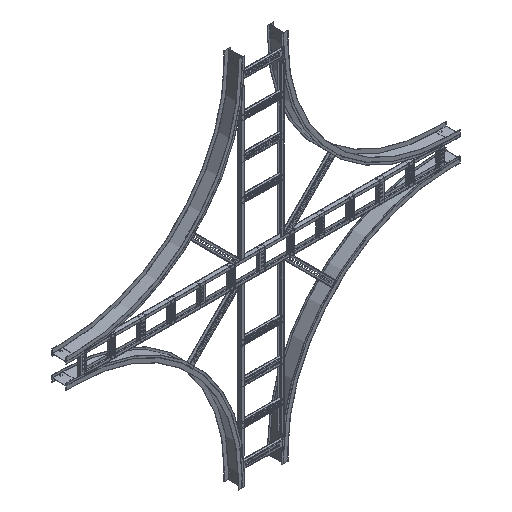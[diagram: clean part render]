
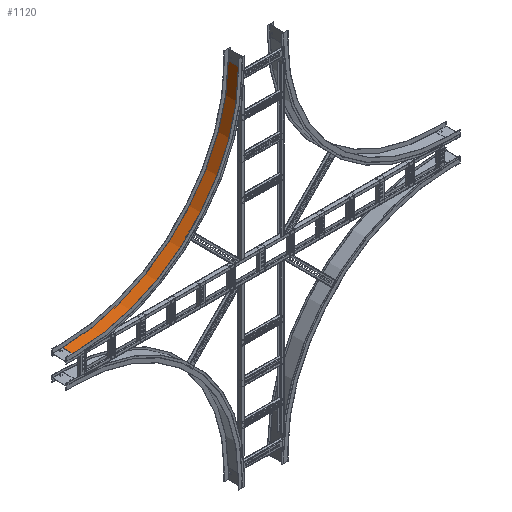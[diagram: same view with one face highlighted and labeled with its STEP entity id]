
A CAD part, isometric view. The second image highlights one B-rep face of the part: STEP entity #1120.
In plain terms, the highlighted cylindrical face has radius 1219.2 mm (diameter 2438.4 mm), a partial arc.
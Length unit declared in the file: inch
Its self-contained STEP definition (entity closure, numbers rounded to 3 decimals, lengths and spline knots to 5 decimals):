
#157=CARTESIAN_POINT('',(4.095,-48.,3.));
#158=DIRECTION('',(1.,0.,0.));
#159=DIRECTION('',(0.,1.,0.));
#160=AXIS2_PLACEMENT_3D('',#157,#158,#159);
#350=DIRECTION('',(1.,0.,0.));
#351=VECTOR('',#350,4.015);
#352=CARTESIAN_POINT('',(0.08,-48.,51.));
#353=LINE('',#352,#351);
#390=DIRECTION('',(1.,0.,0.));
#391=VECTOR('',#390,4.015);
#392=CARTESIAN_POINT('',(0.08,0.,3.));
#393=LINE('',#392,#391);
#394=CARTESIAN_POINT('',(0.08,-48.,3.));
#395=DIRECTION('',(1.,0.,0.));
#396=DIRECTION('',(0.,1.,0.));
#397=AXIS2_PLACEMENT_3D('',#394,#395,#396);
#521=CARTESIAN_POINT('',(0.08,0.,3.));
#522=CARTESIAN_POINT('',(4.095,0.,3.));
#523=VERTEX_POINT('',#521);
#524=VERTEX_POINT('',#522);
#545=CARTESIAN_POINT('',(0.08,-48.,51.));
#546=CARTESIAN_POINT('',(4.095,-48.,51.));
#547=VERTEX_POINT('',#545);
#548=VERTEX_POINT('',#546);
#1109=CARTESIAN_POINT('',(-1.,-48.,3.));
#1110=DIRECTION('',(1.,0.,0.));
#1111=DIRECTION('',(0.,-1.,0.));
#1112=AXIS2_PLACEMENT_3D('',#1109,#1110,#1111);
#1113=CYLINDRICAL_SURFACE('',#1112,48.);
#1114=ORIENTED_EDGE('',*,*,#894,.F.);
#1115=ORIENTED_EDGE('',*,*,#935,.T.);
#1116=ORIENTED_EDGE('',*,*,#1082,.T.);
#1117=ORIENTED_EDGE('',*,*,#872,.F.);
#1118=EDGE_LOOP('',(#1114,#1115,#1116,#1117));
#1119=FACE_OUTER_BOUND('',#1118,.F.);
#1120=ADVANCED_FACE('',(#1119),#1113,.F.);
#161=CIRCLE('',#160,48.);
#398=CIRCLE('',#397,48.);
#872=EDGE_CURVE('',#524,#548,#161,.T.);
#894=EDGE_CURVE('',#523,#524,#393,.T.);
#935=EDGE_CURVE('',#523,#547,#398,.T.);
#1082=EDGE_CURVE('',#547,#548,#353,.T.);
